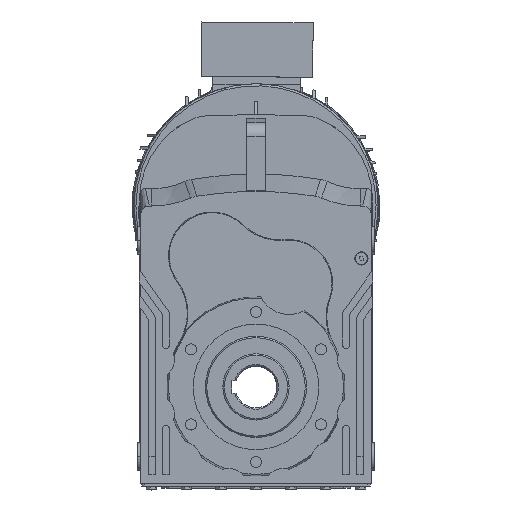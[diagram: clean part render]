
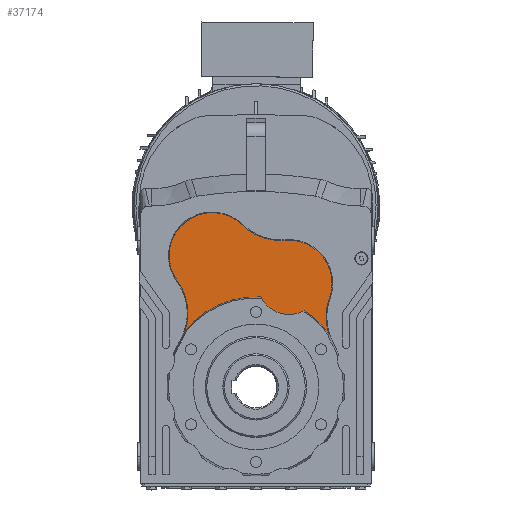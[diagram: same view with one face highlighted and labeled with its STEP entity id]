
A CAD part, top view. The second image highlights one B-rep face of the part: STEP entity #37174.
In plain terms, the highlighted planar face has unit normal (0, 0, 1).
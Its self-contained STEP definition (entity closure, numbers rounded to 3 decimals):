
#4269 = CIRCLE ( 'NONE', #34461, 129.152 ) ;
#4271 = CIRCLE ( 'NONE', #34430, 61.629 ) ;
#4391 = CIRCLE ( 'NONE', #34443, 78.371 ) ;
#4407 = CIRCLE ( 'NONE', #34491, 61.629 ) ;
#4419 = CIRCLE ( 'NONE', #34459, 129.152 ) ;
#4509 = CIRCLE ( 'NONE', #34488, 45. ) ;
#6375 = FACE_OUTER_BOUND ( 'NONE', #33267, .T. ) ;
#10409 = DIRECTION ( 'NONE',  ( 1., 0., 0. ) ) ;
#10444 = DIRECTION ( 'NONE',  ( 0., 0., 1. ) ) ;
#10450 = CARTESIAN_POINT ( 'NONE',  ( 41.229, 218.377, 198.5 ) ) ;
#10461 = PLANE ( 'NONE',  #35510 ) ;
#14372 = CARTESIAN_POINT ( 'NONE',  ( -62.819, 249.699, 198.5 ) ) ;
#14420 = CARTESIAN_POINT ( 'NONE',  ( 35.119, 209.739, 198.5 ) ) ;
#14448 = CARTESIAN_POINT ( 'NONE',  ( -112.562, 151.686, 198.5 ) ) ;
#14449 = CARTESIAN_POINT ( 'NONE',  ( 41.959, 210.038, 198.5 ) ) ;
#15610 = EDGE_CURVE ( 'NONE', #30987, #30936, #67476, .T. ) ;
#15624 = EDGE_CURVE ( 'NONE', #30986, #30942, #67444, .T. ) ;
#18614 = CARTESIAN_POINT ( 'NONE',  ( 6.867, 128.969, 198.5 ) ) ;
#18671 = CARTESIAN_POINT ( 'NONE',  ( 68.978, 109.189, 198.5 ) ) ;
#18809 = CARTESIAN_POINT ( 'NONE',  ( 104.136, 76.392, 198.5 ) ) ;
#18837 = CARTESIAN_POINT ( 'NONE',  ( -19.706, 232.108, 198.5 ) ) ;
#18867 = CARTESIAN_POINT ( 'NONE',  ( -101.917, 79.328, 198.5 ) ) ;
#18893 = CARTESIAN_POINT ( 'NONE',  ( 105.187, 127.392, 198.5 ) ) ;
#19287 = DIRECTION ( 'NONE',  ( 0., 0., -1. ) ) ;
#19311 = CARTESIAN_POINT ( 'NONE',  ( 47.338, 148.644, 198.5 ) ) ;
#19324 = DIRECTION ( 'NONE',  ( -1., 0., 0. ) ) ;
#19364 = CARTESIAN_POINT ( 'NONE',  ( 0., 0., 198.5 ) ) ;
#19366 = DIRECTION ( 'NONE',  ( 0., 0., 1. ) ) ;
#19403 = DIRECTION ( 'NONE',  ( -1., 0., 0. ) ) ;
#19440 = DIRECTION ( 'NONE',  ( 0., 0., -1. ) ) ;
#19452 = DIRECTION ( 'NONE',  ( -1., 0., 0. ) ) ;
#19458 = CARTESIAN_POINT ( 'NONE',  ( -175.818, 105.418, 198.5 ) ) ;
#19463 = DIRECTION ( 'NONE',  ( 0., 0., -1. ) ) ;
#19468 = DIRECTION ( 'NONE',  ( 0., -1., 0. ) ) ;
#19476 = DIRECTION ( 'NONE',  ( 0., 0., 1. ) ) ;
#19501 = DIRECTION ( 'NONE',  ( 0., 1., 0. ) ) ;
#19527 = CARTESIAN_POINT ( 'NONE',  ( -62.819, 188.07, 198.5 ) ) ;
#19529 = CARTESIAN_POINT ( 'NONE',  ( 47.338, 148.644, 198.5 ) ) ;
#19551 = DIRECTION ( 'NONE',  ( -1., 0., 0. ) ) ;
#19582 = DIRECTION ( 'NONE',  ( 0., 0., -1. ) ) ;
#19599 = CARTESIAN_POINT ( 'NONE',  ( 0., 0., 198.5 ) ) ;
#21110 = ORIENTED_EDGE ( 'NONE', *, *, #22039, .T. ) ;
#21114 = ORIENTED_EDGE ( 'NONE', *, *, #15610, .T. ) ;
#21117 = ORIENTED_EDGE ( 'NONE', *, *, #53877, .F. ) ;
#21131 = ORIENTED_EDGE ( 'NONE', *, *, #53897, .F. ) ;
#21142 = ORIENTED_EDGE ( 'NONE', *, *, #53906, .F. ) ;
#21145 = ORIENTED_EDGE ( 'NONE', *, *, #53920, .T. ) ;
#21157 = ORIENTED_EDGE ( 'NONE', *, *, #15624, .F. ) ;
#21158 = ORIENTED_EDGE ( 'NONE', *, *, #53913, .T. ) ;
#21167 = ORIENTED_EDGE ( 'NONE', *, *, #53907, .T. ) ;
#21174 = ORIENTED_EDGE ( 'NONE', *, *, #22070, .T. ) ;
#22039 = EDGE_CURVE ( 'NONE', #30936, #57389, #67613, .T. ) ;
#22070 = EDGE_CURVE ( 'NONE', #57442, #57498, #67586, .T. ) ;
#25995 = AXIS2_PLACEMENT_3D ( 'NONE', #52048, #52029, #51999 ) ;
#26101 = AXIS2_PLACEMENT_3D ( 'NONE', #41303, #41318, #41322 ) ;
#26139 = AXIS2_PLACEMENT_3D ( 'NONE', #51948, #51996, #51987 ) ;
#30936 = VERTEX_POINT ( 'NONE', #14420 ) ;
#30942 = VERTEX_POINT ( 'NONE', #14372 ) ;
#30986 = VERTEX_POINT ( 'NONE', #14448 ) ;
#30987 = VERTEX_POINT ( 'NONE', #14449 ) ;
#33267 = EDGE_LOOP ( 'NONE', ( #21158, #21131, #21167, #21145, #21174, #21117, #21114, #21110, #21142, #21157 ) ) ;
#34430 = AXIS2_PLACEMENT_3D ( 'NONE', #19311, #19287, #19324 ) ;
#34443 = AXIS2_PLACEMENT_3D ( 'NONE', #19458, #19463, #19468 ) ;
#34459 = AXIS2_PLACEMENT_3D ( 'NONE', #19599, #19582, #19551 ) ;
#34461 = AXIS2_PLACEMENT_3D ( 'NONE', #19364, #19366, #19403 ) ;
#34488 = AXIS2_PLACEMENT_3D ( 'NONE', #19529, #19476, #19452 ) ;
#34491 = AXIS2_PLACEMENT_3D ( 'NONE', #19527, #19440, #19501 ) ;
#35510 = AXIS2_PLACEMENT_3D ( 'NONE', #10450, #10444, #10409 ) ;
#37174 = ADVANCED_FACE ( 'NONE', ( #6375 ), #10461, .T. ) ;
#40303 = AXIS2_PLACEMENT_3D ( 'NONE', #41270, #41278, #41279 ) ;
#41270 = CARTESIAN_POINT ( 'NONE',  ( 35.119, 288.11, 198.5 ) ) ;
#41278 = DIRECTION ( 'NONE',  ( 0., 0., -1. ) ) ;
#41279 = DIRECTION ( 'NONE',  ( 0., -1., 0. ) ) ;
#41303 = CARTESIAN_POINT ( 'NONE',  ( -62.819, 188.07, 198.5 ) ) ;
#41318 = DIRECTION ( 'NONE',  ( 0., 0., -1. ) ) ;
#41322 = DIRECTION ( 'NONE',  ( 0., 1., 0. ) ) ;
#51948 = CARTESIAN_POINT ( 'NONE',  ( 35.119, 288.11, 198.5 ) ) ;
#51987 = DIRECTION ( 'NONE',  ( 0., -1., 0. ) ) ;
#51996 = DIRECTION ( 'NONE',  ( 0., 0., -1. ) ) ;
#51999 = DIRECTION ( 'NONE',  ( 0., -1., 0. ) ) ;
#52029 = DIRECTION ( 'NONE',  ( 0., 0., -1. ) ) ;
#52048 = CARTESIAN_POINT ( 'NONE',  ( 178.75, 100.366, 198.5 ) ) ;
#53877 = EDGE_CURVE ( 'NONE', #30987, #57498, #4271, .T. ) ;
#53897 = EDGE_CURVE ( 'NONE', #57324, #57443, #4269, .T. ) ;
#53906 = EDGE_CURVE ( 'NONE', #30942, #57389, #4407, .T. ) ;
#53907 = EDGE_CURVE ( 'NONE', #57324, #57349, #4509, .T. ) ;
#53913 = EDGE_CURVE ( 'NONE', #30986, #57443, #4391, .T. ) ;
#53920 = EDGE_CURVE ( 'NONE', #57349, #57442, #4419, .T. ) ;
#57324 = VERTEX_POINT ( 'NONE', #18614 ) ;
#57349 = VERTEX_POINT ( 'NONE', #18671 ) ;
#57389 = VERTEX_POINT ( 'NONE', #18837 ) ;
#57442 = VERTEX_POINT ( 'NONE', #18809 ) ;
#57443 = VERTEX_POINT ( 'NONE', #18867 ) ;
#57498 = VERTEX_POINT ( 'NONE', #18893 ) ;
#67444 = CIRCLE ( 'NONE', #26101, 61.629 ) ;
#67476 = CIRCLE ( 'NONE', #40303, 78.371 ) ;
#67586 = CIRCLE ( 'NONE', #25995, 78.371 ) ;
#67613 = CIRCLE ( 'NONE', #26139, 78.371 ) ;
